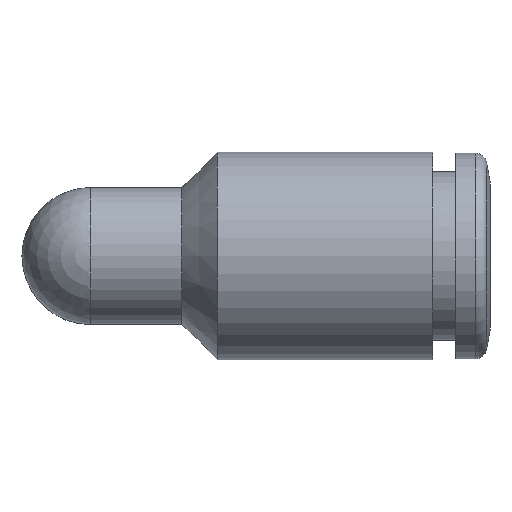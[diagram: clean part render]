
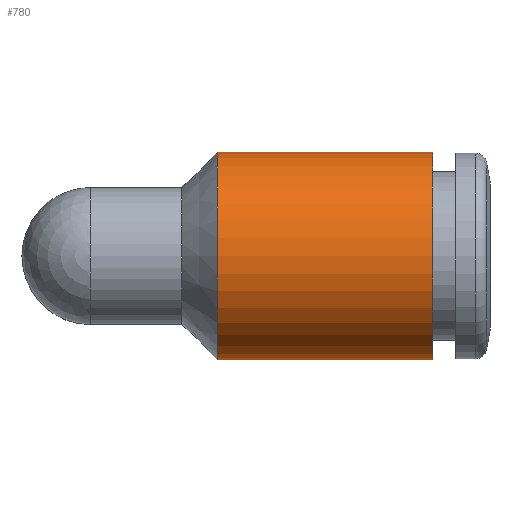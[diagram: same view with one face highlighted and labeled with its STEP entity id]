
A CAD part, top view. The second image highlights one B-rep face of the part: STEP entity #780.
In plain terms, the highlighted cylindrical face has radius 4.55 mm (diameter 9.1 mm), a full revolution.
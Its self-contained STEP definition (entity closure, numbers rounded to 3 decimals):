
#780=ADVANCED_FACE('', (#790,#800), #810, .T.);
#2280=AXIS2_PLACEMENT_3D('Ax2Pl3d', #2290, #2300, #2310);
#3080=AXIS2_PLACEMENT_3D('Ax2Pl3d', #3090, #3100, #3110);
#3120=AXIS2_PLACEMENT_3D('Ax2Pl3d', #3130, #3140, #3150);
#2290=CARTESIAN_POINT('HicPkt', (18.133,13.581,
17.799));
#11820=CARTESIAN_POINT('', (18.133,13.581,22.349));
#3090=CARTESIAN_POINT('HicPkt', (8.683,13.581,
17.799));
#3130=CARTESIAN_POINT('HicPkt', (8.683,13.581,
17.799));
#11920=CARTESIAN_POINT('', (8.683,13.581,22.349));
#12180=CIRCLE('Circle', #2280, 4.55);
#12280=CIRCLE('Circle', #3120, 4.55);
#810=CYLINDRICAL_SURFACE('Zyl', #3080, 4.55);
#2300=DIRECTION('Axis', (-1.,0.,0.))
;
#2310=DIRECTION('RefDirection', (0.,
0.,-1.));
#3100=DIRECTION('Axis', (1.,0.,0.));
#3110=DIRECTION('RefDirection', (0.,0.,-1.));
#3140=DIRECTION('Axis', (-1.,0.,0.))
;
#3150=DIRECTION('RefDirection', (0.,
0.,-1.));
#13880=EDGE_CURVE('', #13890, #13890, #12180, .T.);
#14100=EDGE_CURVE('', #14110, #14110, #12280, .T.);
#15170=EDGE_LOOP('Edge_loop', (#15180));
#15190=EDGE_LOOP('Edge_loop', (#15200));
#800=FACE_BOUND('', #15190, .T.);
#790=FACE_OUTER_BOUND('Face_outer_bound', #15170, .T.);
#15180=ORIENTED_EDGE('', *, *, #13880, .T.);
#15200=ORIENTED_EDGE('', *, *, #14100, .F.);
#13890=VERTEX_POINT('', #11820);
#14110=VERTEX_POINT('', #11920);
